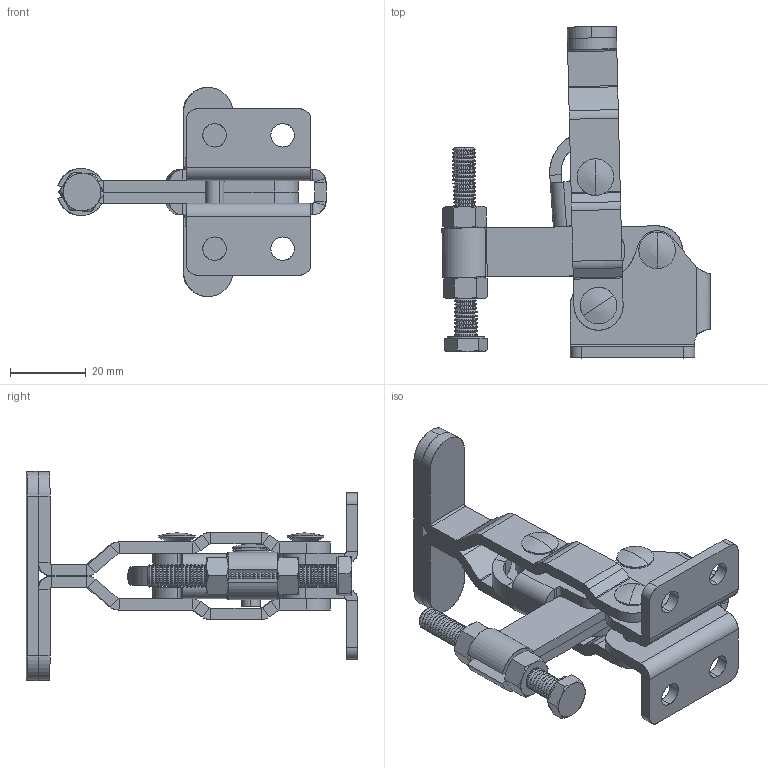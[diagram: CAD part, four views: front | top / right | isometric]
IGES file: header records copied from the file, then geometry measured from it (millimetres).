
Start section: SolidWorks IGES file using analytic representation for surfaces
Global section: file name: \\BARTOP_SV6\share\SOLIDWORKS\工具事業部\坂入用\受け渡し\ISK-40P0.IGS; native system: SolidWorks 2015; preprocessor: SolidWorks 2015; author: SOLID02; date: 150629.184802; units: millimetre
Bounding box: 70.91 x 87.74 x 55.3 mm (x, y, z)
Surface area: 25953.7 mm2 (no closed solid volume)
Topology: 0 solids, 0 shells, 734 faces, 6600 edges, 6596 vertices
Faces by surface type: revolution 503, bspline 231
